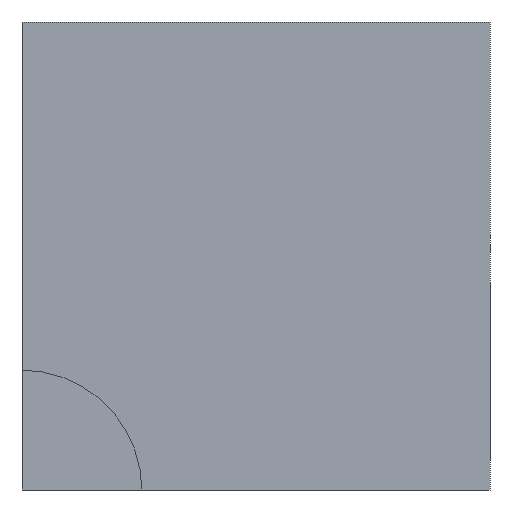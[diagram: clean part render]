
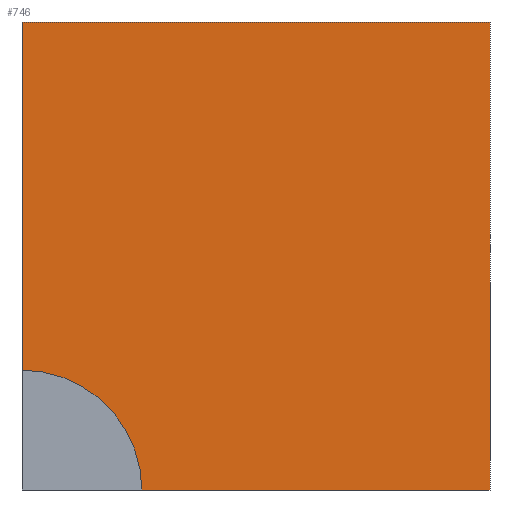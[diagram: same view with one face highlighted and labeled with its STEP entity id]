
A CAD part, left-side view. The second image highlights one B-rep face of the part: STEP entity #746.
In plain terms, the highlighted planar face has unit normal (-1, 0, 0).
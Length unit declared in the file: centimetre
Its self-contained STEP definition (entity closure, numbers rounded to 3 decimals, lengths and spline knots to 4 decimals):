
#6 = VERTEX_POINT ( 'NONE', #1073 ) ;
#22 = CARTESIAN_POINT ( 'NONE',  ( 0., 1000., 1000. ) ) ;
#30 = VECTOR ( 'NONE', #936, 100. ) ;
#55 = DIRECTION ( 'NONE',  ( 0., -1., 0. ) ) ;
#70 = VECTOR ( 'NONE', #586, 100. ) ;
#73 = DIRECTION ( 'NONE',  ( -1., 0., 0. ) ) ;
#96 = CARTESIAN_POINT ( 'NONE',  ( 0., 1000., 1000. ) ) ;
#156 = LINE ( 'NONE', #509, #1113 ) ;
#191 = EDGE_CURVE ( 'NONE', #251, #882, #828, .T. ) ;
#215 = VERTEX_POINT ( 'NONE', #914 ) ;
#221 = ORIENTED_EDGE ( 'NONE', *, *, #662, .F. ) ;
#233 = LINE ( 'NONE', #408, #70 ) ;
#245 = LINE ( 'NONE', #689, #30 ) ;
#248 = EDGE_CURVE ( 'NONE', #215, #882, #729, .T. ) ;
#251 = VERTEX_POINT ( 'NONE', #489 ) ;
#303 = CARTESIAN_POINT ( 'NONE',  ( 0., 1000., 0. ) ) ;
#408 = CARTESIAN_POINT ( 'NONE',  ( 0., 1000., 1000. ) ) ;
#431 = FACE_OUTER_BOUND ( 'NONE', #864, .T. ) ;
#460 = AXIS2_PLACEMENT_3D ( 'NONE', #303, #73, #504 ) ;
#483 = CARTESIAN_POINT ( 'NONE',  ( 0., 0., 0. ) ) ;
#489 = CARTESIAN_POINT ( 'NONE',  ( 0., 1000., 1000. ) ) ;
#491 = ORIENTED_EDGE ( 'NONE', *, *, #191, .T. ) ;
#498 = VERTEX_POINT ( 'NONE', #483 ) ;
#504 = DIRECTION ( 'NONE',  ( 0., 0., 1. ) ) ;
#509 = CARTESIAN_POINT ( 'NONE',  ( 0., 1000., 0. ) ) ;
#560 = DIRECTION ( 'NONE',  ( 0., 0., -1. ) ) ;
#581 = EDGE_CURVE ( 'NONE', #6, #498, #245, .T. ) ;
#586 = DIRECTION ( 'NONE',  ( 0., -1., 0. ) ) ;
#640 = EDGE_CURVE ( 'NONE', #215, #498, #156, .T. ) ;
#662 = EDGE_CURVE ( 'NONE', #251, #6, #233, .T. ) ;
#689 = CARTESIAN_POINT ( 'NONE',  ( 0., 0., 1000. ) ) ;
#729 = CIRCLE ( 'NONE', #460, 256.0575 ) ;
#746 = ADVANCED_FACE ( 'NONE', ( #431 ), #791, .F. ) ;
#791 = PLANE ( 'NONE',  #893 ) ;
#828 = LINE ( 'NONE', #22, #891 ) ;
#858 = ORIENTED_EDGE ( 'NONE', *, *, #640, .T. ) ;
#864 = EDGE_LOOP ( 'NONE', ( #491, #940, #858, #991, #221 ) ) ;
#882 = VERTEX_POINT ( 'NONE', #1078 ) ;
#883 = DIRECTION ( 'NONE',  ( 1., 0., 0. ) ) ;
#889 = DIRECTION ( 'NONE',  ( 0., 0., -1. ) ) ;
#891 = VECTOR ( 'NONE', #560, 100. ) ;
#893 = AXIS2_PLACEMENT_3D ( 'NONE', #96, #883, #889 ) ;
#914 = CARTESIAN_POINT ( 'NONE',  ( 0., 743.9425, 0. ) ) ;
#936 = DIRECTION ( 'NONE',  ( 0., 0., -1. ) ) ;
#940 = ORIENTED_EDGE ( 'NONE', *, *, #248, .F. ) ;
#991 = ORIENTED_EDGE ( 'NONE', *, *, #581, .F. ) ;
#1073 = CARTESIAN_POINT ( 'NONE',  ( 0., 0., 1000. ) ) ;
#1078 = CARTESIAN_POINT ( 'NONE',  ( 0., 1000., 256.0575 ) ) ;
#1113 = VECTOR ( 'NONE', #55, 100. ) ;
